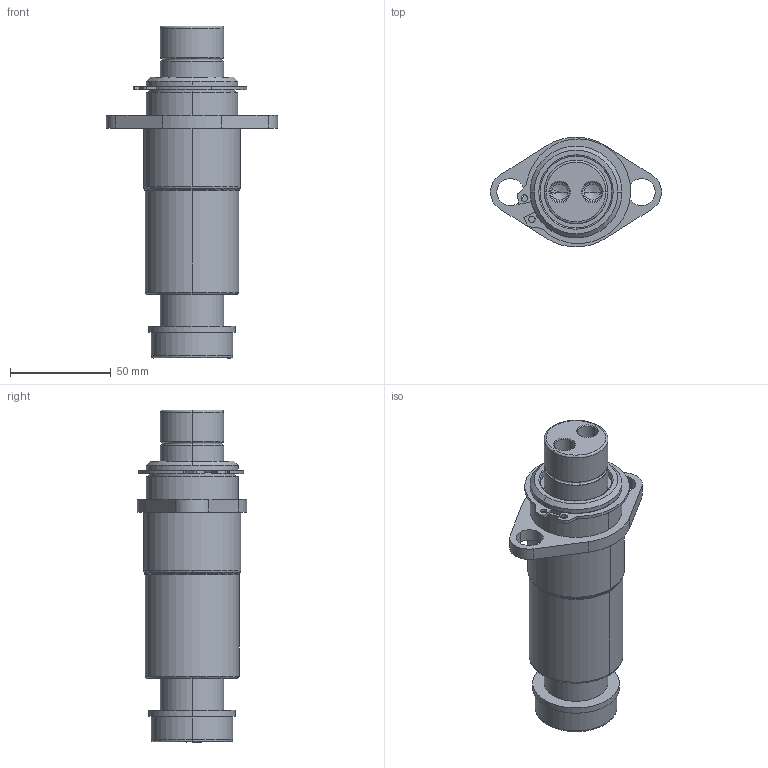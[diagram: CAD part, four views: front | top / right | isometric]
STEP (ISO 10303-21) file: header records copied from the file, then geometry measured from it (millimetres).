
FILE_DESCRIPTION (( 'STEP AP214' ), '1' );
FILE_NAME ('GK122-N4-1-BP-E-XXX.STEP', '2020-09-21T18:31:28', ( '' ), ( '' ), 'SwSTEP 2.0', 'SolidWorks 2017', '' );
FILE_SCHEMA (( 'AUTOMOTIVE_DESIGN' ));
Length unit declared in the file: inch
Products named in the file (7): RetainingRing; GK122-N4-1-BP-E-XXX; GK122-E-XXX-GuidePin; GK1.25-N4-1-BP-Base; GK122-DampeningWasher
Assembly tree (6 placements, depth 3):
  GK122-N4-1-BP-E-XXX
    GK1.25-N4-1-BP-Base
      GK1.25-N4-1-BP-Base
      RetainingRing
    GK122-E-XXX-GuidePin
      GK122-E-XXX-GuidePin
      GK122-DampeningWasher
Bounding box: 85.09 x 54.52 x 165.1 mm (x, y, z)
Volume: 240829.3 mm3; surface area: 57230.4 mm2
Topology: 4 solids, 4 shells, 141 faces, 321 edges, 196 vertices
Faces by surface type: cylinder 65, bspline 30, plane 24, cone 22
Entity records: 5698 total; most frequent: CARTESIAN_POINT 2133, DIRECTION 695, ORIENTED_EDGE 634, EDGE_CURVE 317, AXIS2_PLACEMENT_3D 286, VERTEX_POINT 196, EDGE_LOOP 165, CIRCLE 164
